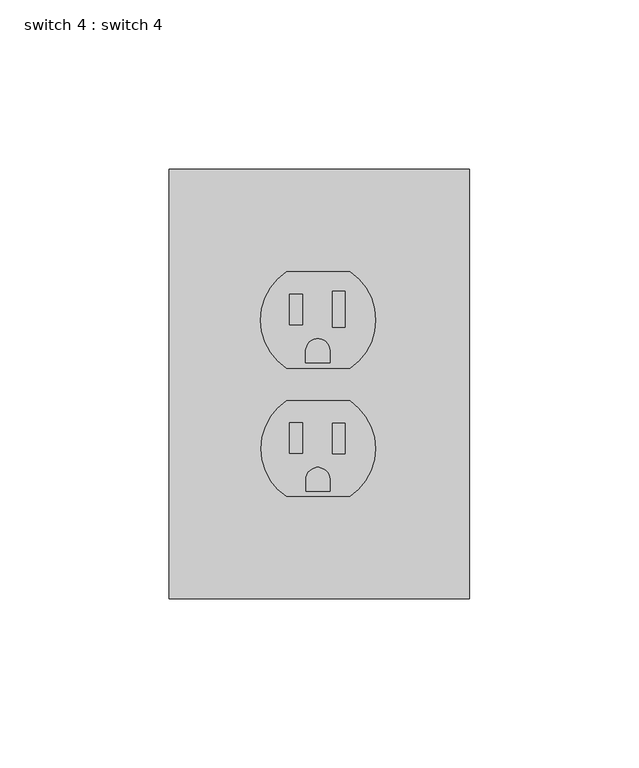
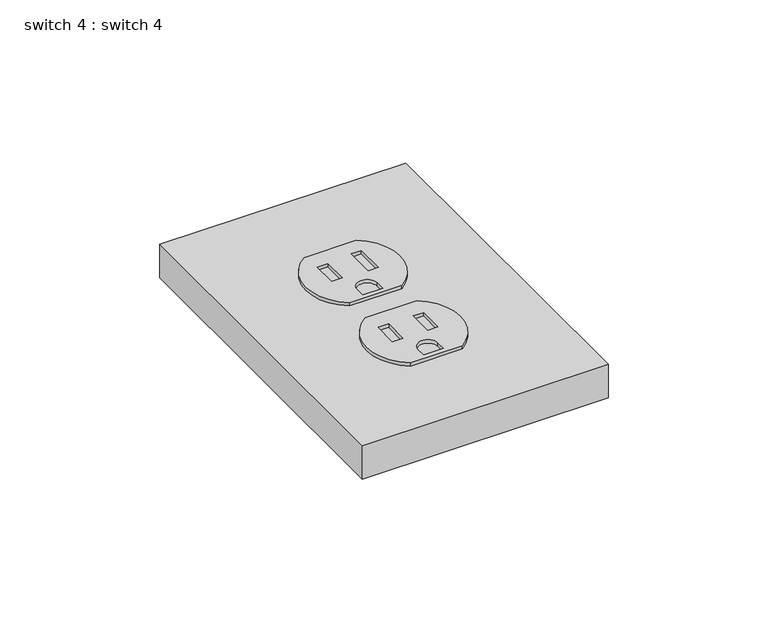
"""IFC4 building model written with IfcOpenShell, lengths in millimetres: proxy geometry, switch 4 : switch 4."""

from ifc_helpers import new_model, si_unit, point, frame, frame_2d, origin, origin_with_axes, place, context, project, spatial, polyline, circle_curve, trimmed, segment, composite_curve, outline, extrude, source, transform, mapped, element, save


def switch_4_switch_4_5f3987fe(model_context):
    return source(origin(), model_context, "Body", "SweptSolid", [
        extrude(outline(composite_curve([segment(trimmed(circle_curve(frame_2d((-0.2603272, 82.4095977)), 17.0868414), [point((-9.7643588, 68.2098254))], [point((-9.7643588, 96.6093699))], False, "CARTESIAN"), True, "CONTINUOUS"), segment(polyline([(-9.7643588, 96.6093699), (9.0821791, 96.6093699)]), True, "CONTINUOUS"), segment(trimmed(circle_curve(frame_2d((-0.4218524, 82.4095977)), 17.0868414), [point((9.0821791, 96.6093699))], [point((9.0821791, 68.2098254))], False, "CARTESIAN"), True, "CONTINUOUS"), segment(polyline([(9.0821791, 68.2098254), (-9.7643588, 68.2098254)]), True, "CONTINUOUS")], self_intersect=False), holes=[polyline([(3.9756062, 90.9222436), (3.9756062, 80.2955536), (7.6365093, 80.2955536), (7.6365093, 90.9222436), (3.9756062, 90.9222436)]), polyline([(-4.9954623, 90.0438195), (-8.8199615, 90.0438195), (-8.8199615, 81.0430555), (-4.9954623, 81.0430555), (-4.9954623, 90.0438195)]), composite_curve([segment(polyline([(-4.0083055, 69.8152778), (3.1524544, 69.8152778), (3.1524544, 73.2598984)]), True, "CONTINUOUS"), segment(trimmed(circle_curve(frame_2d((-0.4279255, 73.2598984)), 3.58038), [point((3.1524544, 73.2598984))], [point((-4.0083055, 73.2598984))], True, "CARTESIAN"), True, "CONTINUOUS"), segment(polyline([(-4.0083055, 73.2598984), (-4.0083055, 69.8152778)]), True, "CONTINUOUS")], self_intersect=False)]), frame((0.0, 0.0, 12.7), z_axis=(0.0, 0.0, 1.0), x_axis=(1.0, 0.0, 0.0)), (0.0, 0.0, 1.0), 1.2829052),
        extrude(outline(composite_curve([segment(trimmed(circle_curve(frame_2d((-0.2607271, 44.3795146)), 17.002253), [point((-9.717709, 30.2500383))], [point((-9.717709, 58.5089909))], False, "CARTESIAN"), True, "CONTINUOUS"), segment(polyline([(-9.717709, 58.5089909), (9.0355293, 58.5089909)]), True, "CONTINUOUS"), segment(trimmed(circle_curve(frame_2d((-0.4214526, 44.3795146)), 17.002253), [point((9.0355293, 58.5089909))], [point((9.0355293, 30.2500383))], False, "CARTESIAN"), True, "CONTINUOUS"), segment(polyline([(9.0355293, 30.2500383), (-9.717709, 30.2500383)]), True, "CONTINUOUS")], self_intersect=False), holes=[polyline([(3.9542364, 51.9150417), (3.9542364, 42.9385687), (7.5970163, 42.9385687), (7.5970163, 51.9150417), (3.9542364, 51.9150417)]), polyline([(-4.9724208, 51.9759432), (-8.7779869, 51.9759432), (-8.7779869, 43.0197375), (-4.9724208, 43.0197375), (-4.9724208, 51.9759432)]), composite_curve([segment(polyline([(-3.9901509, 31.8475428), (3.1351597, 31.8475428), (3.1351597, 35.2751108)]), True, "CONTINUOUS"), segment(trimmed(circle_curve(frame_2d((-0.4274956, 35.2751108)), 3.5626553), [point((3.1351597, 35.2751108))], [point((-3.9901509, 35.2751108))], True, "CARTESIAN"), True, "CONTINUOUS"), segment(polyline([(-3.9901509, 35.2751108), (-3.9901509, 31.8475428)]), True, "CONTINUOUS")], self_intersect=False)]), frame((0.0, 0.0, 12.7), z_axis=(0.0, 0.0, 1.0), x_axis=(1.0, 0.0, 0.0)), (0.0, 0.0, 1.0), 1.2829052),
        extrude(outline(polyline([(-44.45, 127.0), (44.45, 127.0), (44.45, 0.0), (-44.45, 0.0), (-44.45, 127.0)])), origin_with_axes(), (0.0, 0.0, 1.0), 12.7),
    ])


if __name__ == "__main__":
    model = new_model("IFC4")
    model_context = context("Model", 3, world=origin())
    ifc_project = project(units=[si_unit("LENGTHUNIT", "METRE", prefix="MILLI")], contexts=[model_context])
    site = spatial("IfcSite", under=ifc_project)
    building = spatial("IfcBuilding", under=site)
    placement = place(None, origin())
    switch_4_switch_4_shape = switch_4_switch_4_5f3987fe(model_context)
    element("IfcBuildingElementProxy", 1, Name="switch 4 : switch 4", ObjectType="switch 4 : switch 4", at=placement, inside=building, context=model_context, shape_type="MappedRepresentation", body=[
        mapped(switch_4_switch_4_shape, transform((0.0, 0.0, 0.0), x_axis=(1.0, 0.0, 0.0), y_axis=(0.0, 1.0, 0.0), z_axis=(0.0, 0.0, 1.0))),
    ])
    save(model, "model.ifc")
